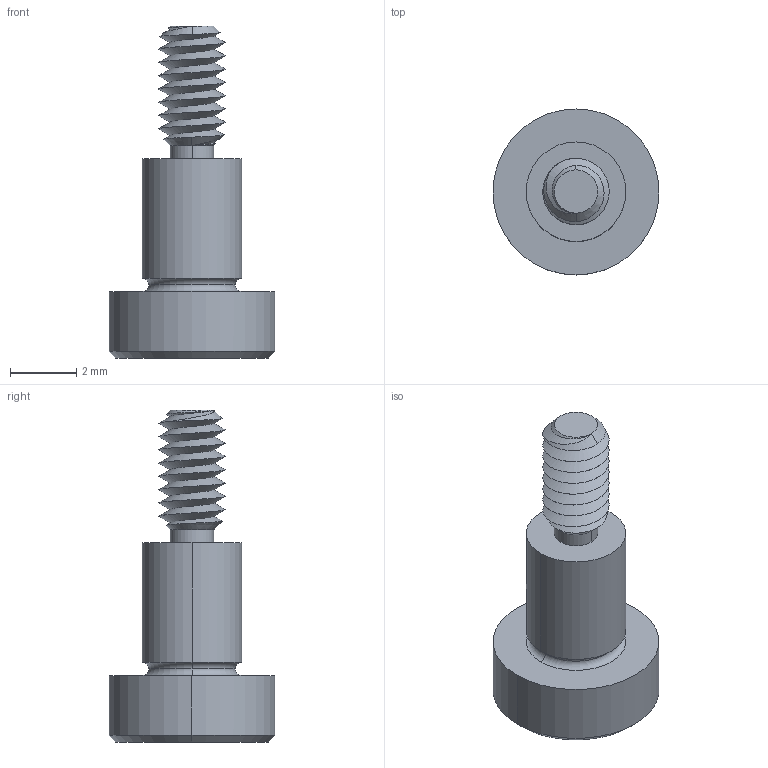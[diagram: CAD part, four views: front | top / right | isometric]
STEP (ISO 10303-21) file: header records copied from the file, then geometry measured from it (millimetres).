
FILE_DESCRIPTION (( 'STEP AP203' ), '1' );
FILE_NAME ('P0130.030-004-B2.step', '2021-11-09T20:53:14', ( '' ), ( '' ), 'SwSTEP 2.0', 'SolidWorks 2019', '' );
FILE_SCHEMA (( 'CONFIG_CONTROL_DESIGN' ));
Length unit declared in the file: millimetre
Products named in the file (1): P0130.030-004-B2
Bounding box: 5 x 5 x 10 mm (x, y, z)
Volume: 71.6 mm3; surface area: 153.8 mm2
Topology: 1 solids, 1 shells, 58 faces, 136 edges, 81 vertices
Faces by surface type: cylinder 22, plane 16, cone 14, torus 4, bspline 2
Entity records: 2452 total; most frequent: CARTESIAN_POINT 1166, ORIENTED_EDGE 268, DIRECTION 241, EDGE_CURVE 134, AXIS2_PLACEMENT_3D 97, VERTEX_POINT 81, EDGE_LOOP 61, FACE_OUTER_BOUND 58
